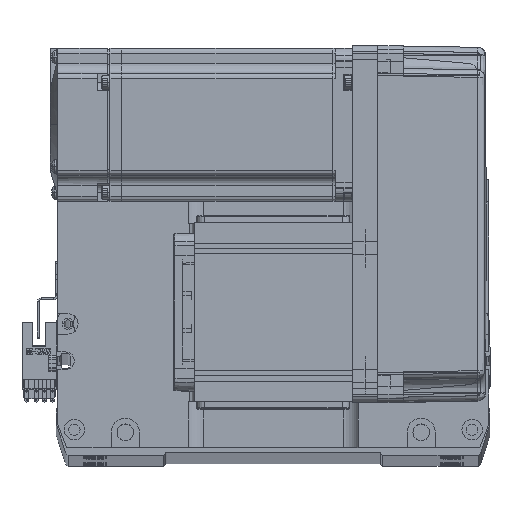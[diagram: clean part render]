
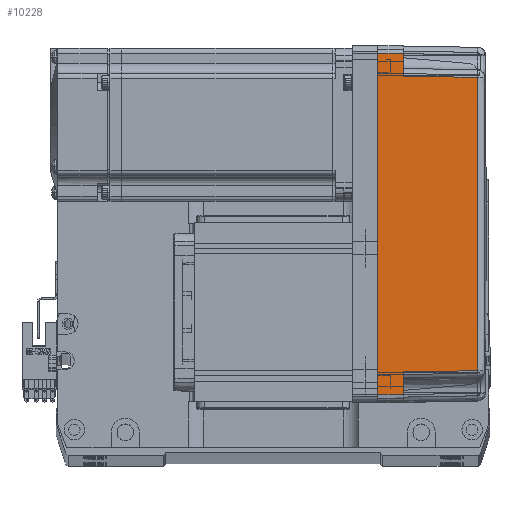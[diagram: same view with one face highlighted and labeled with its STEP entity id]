
A CAD part, top view. The second image highlights one B-rep face of the part: STEP entity #10228.
In plain terms, the highlighted planar face has unit normal (0.018, 0, 1) as drawn and (0, -1, 0.017) by its records, which use the part's own axes.
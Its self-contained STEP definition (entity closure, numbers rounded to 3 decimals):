
#1159 = CARTESIAN_POINT ( 'NONE',  ( -67., -36., 0. ) ) ;
#2632 = VERTEX_POINT ( 'NONE', #48411 ) ;
#3970 = CARTESIAN_POINT ( 'NONE',  ( 58., -35.825, 10. ) ) ;
#7295 = ORIENTED_EDGE ( 'NONE', *, *, #59738, .T. ) ;
#7784 = LINE ( 'NONE', #15625, #55454 ) ;
#9243 = CARTESIAN_POINT ( 'NONE',  ( 58., -35.825, 10. ) ) ;
#10169 = ORIENTED_EDGE ( 'NONE', *, *, #22274, .T. ) ;
#10228 = ADVANCED_FACE ( 'NONE', ( #60850 ), #13129, .T. ) ;
#11825 = VECTOR ( 'NONE', #54431, 1000. ) ;
#13129 = PLANE ( 'NONE',  #48313 ) ;
#13641 = VECTOR ( 'NONE', #58441, 1000. ) ;
#13735 = VECTOR ( 'NONE', #31268, 1000. ) ;
#15625 = CARTESIAN_POINT ( 'NONE',  ( 0., -36., 0. ) ) ;
#15733 = DIRECTION ( 'NONE',  ( -0.017, 0.017, 1. ) ) ;
#16507 = EDGE_CURVE ( 'NONE', #21457, #61608, #40289, .T. ) ;
#17591 = CARTESIAN_POINT ( 'NONE',  ( 57.495, -35.32, 38.985 ) ) ;
#17714 = VECTOR ( 'NONE', #54166, 1000. ) ;
#20375 = LINE ( 'NONE', #9243, #53813 ) ;
#20539 = CARTESIAN_POINT ( 'NONE',  ( 70., -35.825, 10. ) ) ;
#21216 = VERTEX_POINT ( 'NONE', #41827 ) ;
#21457 = VERTEX_POINT ( 'NONE', #27748 ) ;
#22274 = EDGE_CURVE ( 'NONE', #2632, #56487, #45268, .T. ) ;
#23606 = DIRECTION ( 'NONE',  ( 0., -0.017, -1. ) ) ;
#25264 = DIRECTION ( 'NONE',  ( -0.017, 0.017, 1. ) ) ;
#27098 = EDGE_CURVE ( 'NONE', #61608, #33827, #20375, .T. ) ;
#27164 = EDGE_CURVE ( 'NONE', #62961, #58732, #42901, .T. ) ;
#27748 = CARTESIAN_POINT ( 'NONE',  ( 66.826, -35.825, 10. ) ) ;
#31268 = DIRECTION ( 'NONE',  ( -1., 0., 0. ) ) ;
#33827 = VERTEX_POINT ( 'NONE', #69317 ) ;
#34557 = ORIENTED_EDGE ( 'NONE', *, *, #27164, .F. ) ;
#38855 = CARTESIAN_POINT ( 'NONE',  ( -19.165, -35.316, 39.181 ) ) ;
#40289 = LINE ( 'NONE', #59739, #17714 ) ;
#41827 = CARTESIAN_POINT ( 'NONE',  ( 67., -36., 0. ) ) ;
#42575 = CARTESIAN_POINT ( 'NONE',  ( -66.959, -35.958, 2.39 ) ) ;
#42901 = LINE ( 'NONE', #42575, #13641 ) ;
#42995 = ORIENTED_EDGE ( 'NONE', *, *, #27098, .T. ) ;
#44325 = ORIENTED_EDGE ( 'NONE', *, *, #51777, .F. ) ;
#45124 = DIRECTION ( 'NONE',  ( 0., -1., 0.017 ) ) ;
#45268 = LINE ( 'NONE', #49304, #11825 ) ;
#45358 = EDGE_CURVE ( 'NONE', #33827, #2632, #60452, .T. ) ;
#45868 = EDGE_LOOP ( 'NONE', ( #7295, #51278, #42995, #52136, #10169, #63305, #34557, #44325 ) ) ;
#46027 = EDGE_CURVE ( 'NONE', #56487, #58732, #53052, .T. ) ;
#47771 = LINE ( 'NONE', #68049, #54444 ) ;
#48313 = AXIS2_PLACEMENT_3D ( 'NONE', #55859, #45124, #23606 ) ;
#48411 = CARTESIAN_POINT ( 'NONE',  ( -57.495, -35.32, 38.985 ) ) ;
#49304 = CARTESIAN_POINT ( 'NONE',  ( -57.495, -35.32, 38.985 ) ) ;
#51278 = ORIENTED_EDGE ( 'NONE', *, *, #16507, .T. ) ;
#51777 = EDGE_CURVE ( 'NONE', #21216, #62961, #7784, .T. ) ;
#52136 = ORIENTED_EDGE ( 'NONE', *, *, #45358, .T. ) ;
#53052 = LINE ( 'NONE', #20539, #13735 ) ;
#53357 = CARTESIAN_POINT ( 'NONE',  ( -58., -35.825, 10. ) ) ;
#53813 = VECTOR ( 'NONE', #15733, 1000. ) ;
#54166 = DIRECTION ( 'NONE',  ( -1., 0., 0. ) ) ;
#54431 = DIRECTION ( 'NONE',  ( -0.017, -0.017, -1. ) ) ;
#54444 = VECTOR ( 'NONE', #25264, 1000. ) ;
#55172 = CARTESIAN_POINT ( 'NONE',  ( 19.165, -35.316, 39.181 ) ) ;
#55454 = VECTOR ( 'NONE', #58338, 1000. ) ;
#55859 = CARTESIAN_POINT ( 'NONE',  ( 70., -36., 0. ) ) ;
#56487 = VERTEX_POINT ( 'NONE', #53357 ) ;
#58338 = DIRECTION ( 'NONE',  ( -1., 0., 0. ) ) ;
#58441 = DIRECTION ( 'NONE',  ( 0.017, 0.017, 1. ) ) ;
#58732 = VERTEX_POINT ( 'NONE', #61308 ) ;
#59738 = EDGE_CURVE ( 'NONE', #21216, #21457, #47771, .T. ) ;
#59739 = CARTESIAN_POINT ( 'NONE',  ( 70., -35.825, 10. ) ) ;
#60324 = CARTESIAN_POINT ( 'NONE',  ( -57.495, -35.32, 38.985 ) ) ;
#60452 = B_SPLINE_CURVE_WITH_KNOTS ( 'NONE', 3,
 ( #17591, #55172, #38855, #60324 ),
 .UNSPECIFIED., .F., .F.,
 ( 4, 4 ),
 ( 0., 1. ),
 .UNSPECIFIED. ) ;
#60850 = FACE_OUTER_BOUND ( 'NONE', #45868, .T. ) ;
#61308 = CARTESIAN_POINT ( 'NONE',  ( -66.826, -35.825, 10. ) ) ;
#61608 = VERTEX_POINT ( 'NONE', #3970 ) ;
#62961 = VERTEX_POINT ( 'NONE', #1159 ) ;
#63305 = ORIENTED_EDGE ( 'NONE', *, *, #46027, .T. ) ;
#68049 = CARTESIAN_POINT ( 'NONE',  ( 67., -36., 0. ) ) ;
#69317 = CARTESIAN_POINT ( 'NONE',  ( 57.495, -35.32, 38.985 ) ) ;
